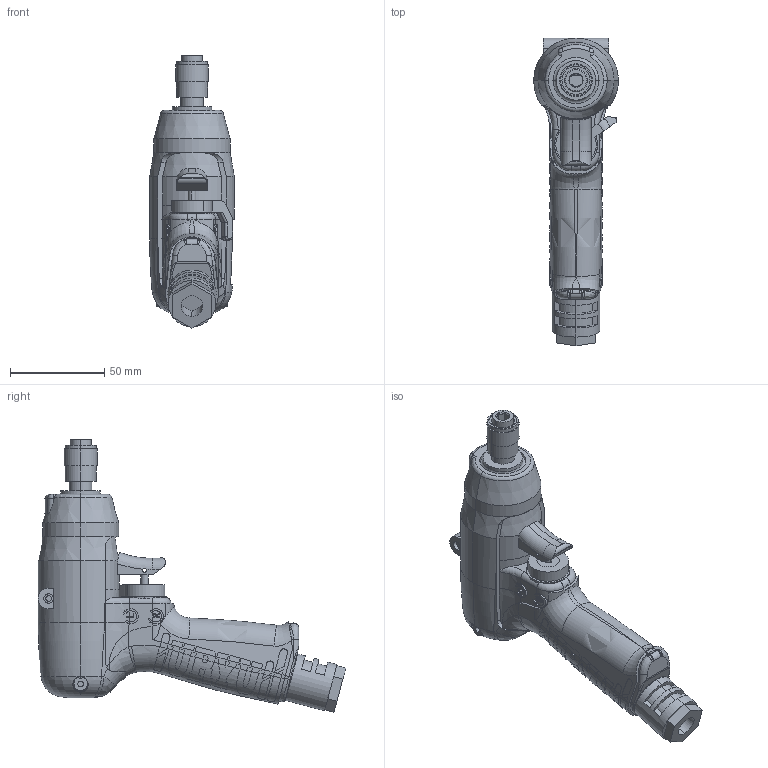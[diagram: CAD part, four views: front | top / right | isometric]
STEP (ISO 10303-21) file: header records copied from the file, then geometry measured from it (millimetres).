
FILE_DESCRIPTION (( 'STEP AP203' ), '1' );
FILE_NAME ('UL40D.STEP', '2006-06-06T00:27:32', ( '' ), ( '' ), 'SwSTEP 2.0', 'SolidWorks 2003240', '' );
FILE_SCHEMA (( 'CONFIG_CONTROL_DESIGN' ));
Length unit declared in the file: millimetre
Products named in the file (10): 1478422_UL40_蹬怮椔; 1438400_UL40_蹬怮椔; UL40D; 1434390_UL40_蹬怮椔; 1430250_UL40_蹬怮椔; 4802128_UL40_蹬怮椔; 1471072_UL40_蹬怮椔; 9810020_UL30D_蹬怮椔; 1433502_UL30D_蹬怮椔; 0113511_UL30D_蹬怮椔
Assembly tree (9 placements, depth 2):
  UL40D
    1430250_UL40_蹬怮椔
    1438400_UL40_蹬怮椔
    0113511_UL30D_蹬怮椔
    1471072_UL40_蹬怮椔
    1434390_UL40_蹬怮椔
    1433502_UL30D_蹬怮椔
    4802128_UL40_蹬怮椔
    9810020_UL30D_蹬怮椔
    1478422_UL40_蹬怮椔
Bounding box: 45 x 163.47 x 144.72 mm (x, y, z)
Volume: 254063.9 mm3; surface area: 80781.2 mm2
Topology: 9 solids, 9 shells, 1311 faces, 3611 edges, 2345 vertices
Faces by surface type: plane 783, cylinder 272, bspline 167, torus 66, cone 15, sphere 8
Entity records: 106102 total; most frequent: CARTESIAN_POINT 74769, ORIENTED_EDGE 7204, DIRECTION 5013, EDGE_CURVE 3602, VERTEX_POINT 2342, AXIS2_PLACEMENT_3D 1735, VECTOR 1543, LINE 1543
